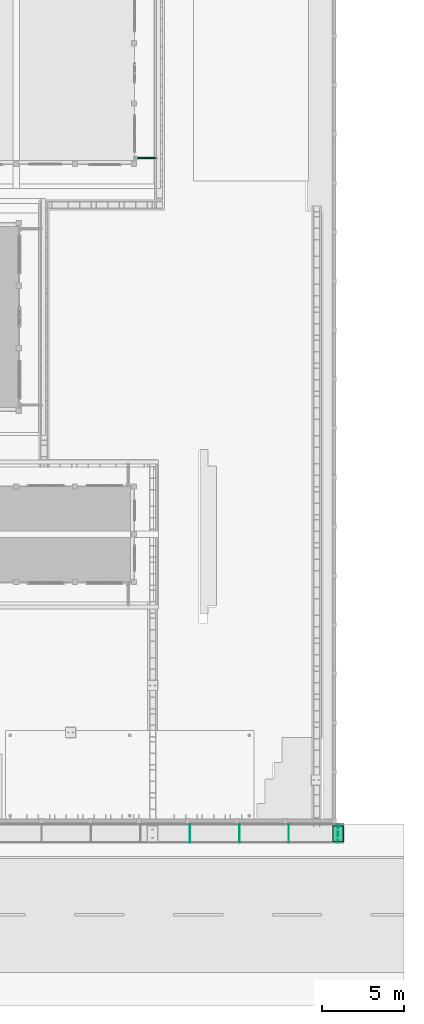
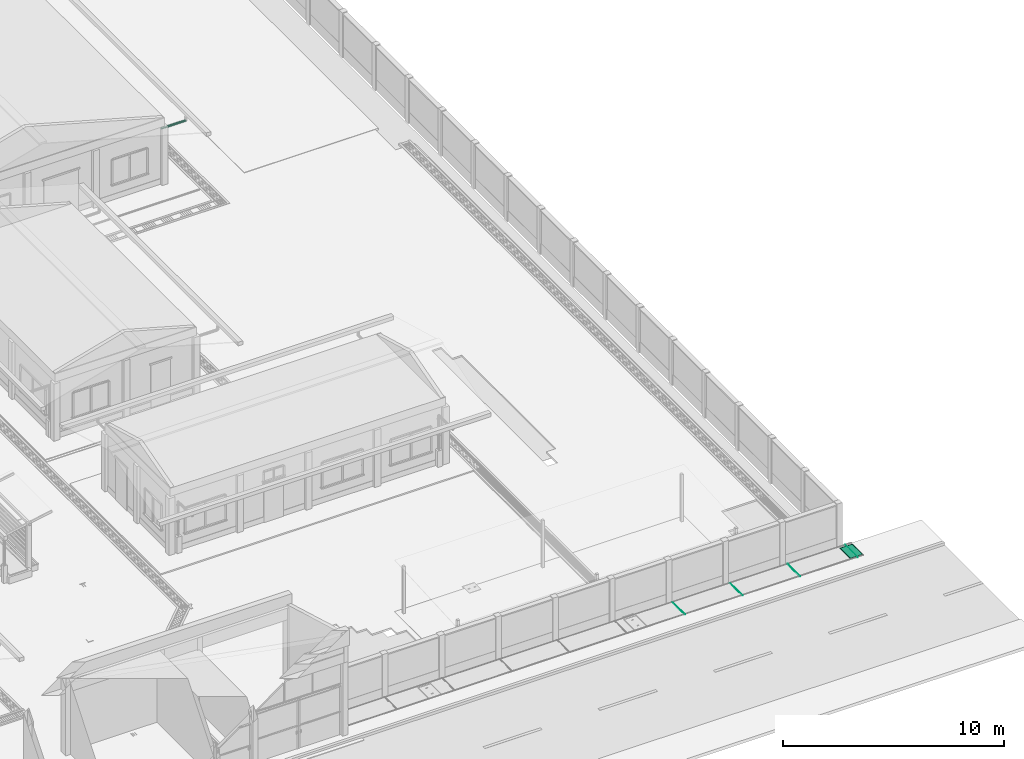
# One storey, part 96 of 151: 5 flow segments, 2 distribution chamber elements.
"""IFC2X3 building model written with IfcOpenShell, lengths in metres."""

import ifcopenshell
import ifcopenshell.guid

model = None  # the IFC model being written
_history = None  # IfcOwnerHistory: only IFC2X3 demands one
_inside = {}  # id of a spatial element -> (the spatial element, [elements in it])
_under = {}  # id of a project, library or spatial element -> (it, [spatial elements below it])
_declared = {}  # id of a project -> (the project, [libraries it declares])
_typed = {}  # id of a type object -> (the type object, [elements of that type])
_made_of = {}  # id of a material, layer set ... -> (it, [elements and type objects made of it])


def new_model(schema):
    """Start an empty IFC model of exactly this schema.

    Asked for "IFC4X3", IfcOpenShell would pick the latest addendum, in which some entities
    have other attributes; the version numbers below select the first issue.
    IFC2X3 requires an IfcOwnerHistory on every rooted entity: one is made here for all.
    """
    global model, _history
    if schema == "IFC4X3":
        model = ifcopenshell.file(schema_version=(4, 3, 0, 0))
    else:
        model = ifcopenshell.file(schema=schema)
    _inside.clear()
    _under.clear()
    _declared.clear()
    _typed.clear()
    _made_of.clear()
    _history = None
    if model.schema == "IFC2X3":
        org = make("IfcOrganization", Name="unknown")
        user = make(
            "IfcPersonAndOrganization",
            ThePerson=make("IfcPerson", FamilyName="unknown"),
            TheOrganization=org,
        )
        app = make(
            "IfcApplication",
            ApplicationDeveloper=org,
            Version="unknown",
            ApplicationFullName="unknown",
            ApplicationIdentifier="unknown",
        )
        _history = make(
            "IfcOwnerHistory",
            OwningUser=user,
            OwningApplication=app,
            ChangeAction="ADDED",
            CreationDate=0,
        )
    return model


def make(cls, **values):
    """One entity of the class cls with the attributes given. An attribute that is None is left unset."""
    return model.create_entity(
        cls, **{name: value for name, value in values.items() if value is not None}
    )


def rooted(cls, **values):
    """An entity with a GlobalId (a new one), such as an element, a storey or a relation."""
    return make(cls, GlobalId=ifcopenshell.guid.new(), OwnerHistory=_history, **values)


def si_unit(unit_type, name, prefix=None):
    """IfcSIUnit, for example si_unit("LENGTHUNIT", "METRE", prefix="MILLI")."""
    return make("IfcSIUnit", UnitType=unit_type, Prefix=prefix, Name=name)


def assignment(units):
    """IfcUnitAssignment: the units of a project."""
    return None if units is None else make("IfcUnitAssignment", Units=units)


def point(xyz):
    """IfcCartesianPoint."""
    return None if xyz is None else make("IfcCartesianPoint", Coordinates=xyz)


def direction(xyz):
    """IfcDirection."""
    return None if xyz is None else make("IfcDirection", DirectionRatios=xyz)


def frame(location, z_axis=None, x_axis=None):
    """IfcAxis2Placement3D, a coordinate frame: its origin and axes. An axis left out is left unset."""
    return make(
        "IfcAxis2Placement3D",
        Location=point(location),
        Axis=direction(z_axis),
        RefDirection=direction(x_axis),
    )


def origin():
    """The frame at (0, 0, 0) with its axes left unset."""
    return frame((0.0, 0.0, 0.0))


def origin_with_axes():
    """The frame at (0, 0, 0) with the z axis (0, 0, 1) and the x axis (1, 0, 0) written out."""
    return frame((0.0, 0.0, 0.0), z_axis=(0.0, 0.0, 1.0), x_axis=(1.0, 0.0, 0.0))


def place(relative_to, where):
    """IfcLocalPlacement: puts the frame where relative to a parent placement (None: the world)."""
    return make(
        "IfcLocalPlacement", PlacementRelTo=relative_to, RelativePlacement=where
    )


def context(
    kind, dimensions, precision=None, world=None, true_north=None, identifier=None
):
    """IfcGeometricRepresentationContext, for example the 3D "Model" context."""
    return make(
        "IfcGeometricRepresentationContext",
        ContextIdentifier=identifier,
        ContextType=kind,
        CoordinateSpaceDimension=dimensions,
        Precision=precision,
        WorldCoordinateSystem=world,
        TrueNorth=true_north,
    )


def subcontext(parent, identifier, kind, view, scale=None):
    """IfcGeometricRepresentationSubContext, for example "Body" below "Model"."""
    return make(
        "IfcGeometricRepresentationSubContext",
        ContextIdentifier=identifier,
        ContextType=kind,
        ParentContext=parent,
        TargetScale=scale,
        TargetView=view,
    )


def project(units=None, contexts=None):
    """IfcProject with its units and contexts."""
    return rooted(
        "IfcProject",
        Name="project",
        RepresentationContexts=contexts,
        UnitsInContext=assignment(units),
    )


def spatial(cls, under=None, at=None, **own):
    """A site, building, storey or space (cls), placed at a placement, below another one or the project."""
    s = rooted(cls, ObjectPlacement=at, **own)
    if under is not None:
        _under.setdefault(under.id(), (under, []))[1].append(s)
    return s


def faces_of(points, faces, orient=None, outer=None):
    """IfcFace entities. A face is a list of loops; a loop is a list of indices into points, from 0.

    orient and outer hold one flag for each loop. By default every Orientation is true, the
    first loop of a face is its IfcFaceOuterBound and the others are IfcFaceBound.
    """
    made = []
    for i, loops in enumerate(faces):
        bounds = []
        for j, loop in enumerate(loops):
            is_outer = j == 0 if outer is None else outer[i][j]
            bounds.append(
                make(
                    "IfcFaceOuterBound" if is_outer else "IfcFaceBound",
                    Bound=make("IfcPolyLoop", Polygon=[points[k] for k in loop]),
                    Orientation=True if orient is None else orient[i][j],
                )
            )
        made.append(make("IfcFace", Bounds=bounds))
    return made


def faceted_brep(points, faces, orient=None, outer=None, voids=None):
    """IfcFacetedBrep: a solid bounded by flat faces; with voids (closed shells), ...WithVoids."""
    shared = [point(p) for p in points]
    hull = make("IfcClosedShell", CfsFaces=faces_of(shared, faces, orient, outer))
    if voids is None:
        return make("IfcFacetedBrep", Outer=hull)
    return make(
        "IfcFacetedBrepWithVoids",
        Outer=hull,
        Voids=[
            make(cls, CfsFaces=faces_of(shared, fs, o, b)) for cls, fs, o, b in voids
        ],
    )


def shape(context_of_items, identifier, shape_type, items):
    """IfcShapeRepresentation: the items that make up one representation, for example the "Body"."""
    return make(
        "IfcShapeRepresentation",
        ContextOfItems=context_of_items,
        RepresentationIdentifier=identifier,
        RepresentationType=shape_type,
        Items=items,
    )


def made_of(thing, what):
    """Note that an element or type object is made of a material, layer set ...; save() writes the relation."""
    if what is not None:
        _made_of.setdefault(what.id(), (what, []))[1].append(thing)
    return thing


def element(
    cls,
    number,
    at=None,
    inside=None,
    cuts=None,
    type_object=None,
    material=None,
    context=None,
    identifier="Body",
    shape_type=None,
    held_by="IfcProductDefinitionShape",
    body=None,
    shapes=None,
    **own,
):
    """One element of the class cls, such as IfcWall. Its Tag is "e" and its number.

    at: its placement. inside: the storey or other place that contains it. cuts: it is an
    opening in that element (IfcRelVoidsElement). A single representation is given by context,
    identifier, shape_type and body (its items); several are given by shapes. held_by: the class
    of the entity that holds the representations. save() writes the other relations.
    """
    e = rooted(cls, Tag="e%d" % number, ObjectPlacement=at, **own)
    if body is not None:
        shapes = [shape(context, identifier, shape_type, body)]
    if shapes is not None:
        e.Representation = make(held_by, Representations=shapes)
    if inside is not None:
        _inside.setdefault(inside.id(), (inside, []))[1].append(e)
    if cuts is not None:
        rooted(
            "IfcRelVoidsElement", RelatingBuildingElement=cuts, RelatedOpeningElement=e
        )
    if type_object is not None:
        _typed.setdefault(type_object.id(), (type_object, []))[1].append(e)
    return made_of(e, material)


def aggregate(whole, parts):
    """IfcRelAggregates: a whole, such as a stair, and the parts it consists of."""
    return rooted("IfcRelAggregates", RelatingObject=whole, RelatedObjects=parts)


def save(model, path):
    """Write the relations noted so far, then the file.

    IfcRelAggregates (storeys below a building ...), IfcRelContainedInSpatialStructure (elements
    in a storey), IfcRelDefinesByType, IfcRelAssociatesMaterial and IfcRelDeclares: one each for
    every whole, place, type object, material and project.
    """
    for whole, parts in _under.values():
        aggregate(whole, parts)
    for where, things in _inside.values():
        rooted(
            "IfcRelContainedInSpatialStructure",
            RelatedElements=things,
            RelatingStructure=where,
        )
    for kind, things in _typed.values():
        rooted("IfcRelDefinesByType", RelatedObjects=things, RelatingType=kind)
    for what, things in _made_of.values():
        rooted("IfcRelAssociatesMaterial", RelatedObjects=things, RelatingMaterial=what)
    for by, libraries in _declared.values():
        rooted("IfcRelDeclares", RelatingContext=by, RelatedDefinitions=libraries)
    model.write(path)


model = new_model("IFC2X3")

# Units and contexts
model_context = context("Model", 3, precision=1e-05, world=origin_with_axes())
body_context = subcontext(model_context, "Body", "Model", "MODEL_VIEW")
ifc_project = project(units=[si_unit("LENGTHUNIT", "METRE"), si_unit("AREAUNIT", "SQUARE_METRE"), si_unit("VOLUMEUNIT", "CUBIC_METRE"), si_unit("PLANEANGLEUNIT", "RADIAN")], contexts=[model_context])

# Site, building, storey
site_placement = place(None, origin_with_axes())
site = spatial("IfcSite", under=ifc_project, at=site_placement, Name="Predio Los Mangos - Morales, San Martín", CompositionType="ELEMENT")
building_placement = place(site_placement, origin())
building = spatial("IfcBuilding", under=site, at=building_placement, Name="Hogar de Refugio Temporal", CompositionType="ELEMENT")
storey_placement = place(building_placement, origin())
storey = spatial("IfcBuildingStorey", under=building, at=storey_placement, Name="NIVEL 1 (NPT +0.00)", CompositionType="ELEMENT", Elevation=0.0)

# Flow segments
flow_segment_1_placement = place(storey_placement, origin())
element("IfcFlowSegment", 1, at=flow_segment_1_placement, inside=storey, Name="montante_desvio", ObjectType="Montante PVC 4\"", context=body_context, shape_type="Brep", body=[
    faceted_brep([(60.98, 58.25, 2.965), (59.69, 58.25, 2.965), (59.69, 58.2225, 2.9576), (60.98, 58.2225, 2.9576), (59.69, 58.2024, 2.9375), (60.98, 58.2024, 2.9375), (59.69, 58.195, 2.91), (60.98, 58.195, 2.91), (59.69, 58.2024, 2.8825), (60.98, 58.2024, 2.8825), (59.69, 58.2225, 2.8624), (60.98, 58.2225, 2.8624), (59.69, 58.25, 2.855), (60.98, 58.25, 2.855), (59.69, 58.2775, 2.8624), (60.98, 58.2775, 2.8624), (59.69, 58.2976, 2.8825), (60.98, 58.2976, 2.8825), (59.69, 58.305, 2.91), (60.98, 58.305, 2.91), (59.69, 58.2976, 2.9375), (60.98, 58.2976, 2.9375), (59.69, 58.2775, 2.9576), (60.98, 58.2775, 2.9576)], [[[0, 1, 2, 3]], [[3, 2, 4, 5]], [[5, 4, 6, 7]], [[7, 6, 8, 9]], [[9, 8, 10, 11]], [[11, 10, 12, 13]], [[13, 12, 14, 15]], [[15, 14, 16, 17]], [[17, 16, 18, 19]], [[19, 18, 20, 21]], [[2, 1, 22, 20, 18, 16, 14, 12, 10, 8, 6, 4]], [[21, 20, 22, 23]], [[23, 22, 1, 0]], [[0, 3, 5, 7, 9, 11, 13, 15, 17, 19, 21, 23]]]),
])
flow_segment_2_placement = place(storey_placement, origin())
element("IfcFlowSegment", 2, at=flow_segment_2_placement, inside=storey, Name="junta_losa", ObjectType="Colector frontal b=0.80 (losa-vereda)", context=body_context, shape_type="Brep", body=[
    faceted_brep([(71.9873, 16.665, 0.15), (71.9873, 17.79, 0.15), (72.0127, 17.79, 0.15), (72.0127, 16.665, 0.15), (71.9873, 16.665, 0.1635), (72.0127, 16.665, 0.1635), (72.0127, 17.79, 0.1635), (71.9873, 17.79, 0.1635)], [[[0, 1, 2, 3]], [[4, 5, 6, 7]], [[0, 3, 5, 4]], [[3, 2, 6, 5]], [[2, 1, 7, 6]], [[1, 0, 4, 7]]]),
])
flow_segment_3_placement = place(storey_placement, origin())
element("IfcFlowSegment", 3, at=flow_segment_3_placement, inside=storey, Name="junta_losa", ObjectType="Colector frontal b=0.80 (losa-vereda)", context=body_context, shape_type="Brep", body=[
    faceted_brep([(68.9873, 16.665, 0.15), (68.9873, 17.79, 0.15), (69.0127, 17.79, 0.15), (69.0127, 16.665, 0.15), (68.9873, 16.665, 0.1635), (69.0127, 16.665, 0.1635), (69.0127, 17.79, 0.1635), (68.9873, 17.79, 0.1635)], [[[0, 1, 2, 3]], [[4, 5, 6, 7]], [[0, 3, 5, 4]], [[3, 2, 6, 5]], [[2, 1, 7, 6]], [[1, 0, 4, 7]]]),
])
flow_segment_4_placement = place(storey_placement, origin())
element("IfcFlowSegment", 4, at=flow_segment_4_placement, inside=storey, Name="junta_losa", ObjectType="Colector frontal b=0.80 (losa-vereda)", context=body_context, shape_type="Brep", body=[
    faceted_brep([(65.9873, 16.665, 0.15), (65.9873, 17.79, 0.15), (66.0127, 17.79, 0.15), (66.0127, 16.665, 0.15), (65.9873, 16.665, 0.1635), (66.0127, 16.665, 0.1635), (66.0127, 17.79, 0.1635), (65.9873, 17.79, 0.1635)], [[[0, 1, 2, 3]], [[4, 5, 6, 7]], [[0, 3, 5, 4]], [[3, 2, 6, 5]], [[2, 1, 7, 6]], [[1, 0, 4, 7]]]),
])
flow_segment_5_placement = place(storey_placement, origin())
element("IfcFlowSegment", 5, at=flow_segment_5_placement, inside=storey, Name="junta_losa", ObjectType="Colector frontal b=0.80 (losa-vereda)", context=body_context, shape_type="Brep", body=[
    faceted_brep([(62.9873, 16.665, 0.15), (62.9873, 17.79, 0.15), (63.0127, 17.79, 0.15), (63.0127, 16.665, 0.15), (62.9873, 16.665, 0.1635), (63.0127, 16.665, 0.1635), (63.0127, 17.79, 0.1635), (62.9873, 17.79, 0.1635)], [[[0, 1, 2, 3]], [[4, 5, 6, 7]], [[0, 3, 5, 4]], [[3, 2, 6, 5]], [[2, 1, 7, 6]], [[1, 0, 4, 7]]]),
])

# Distribution chamber elements
distribution_chamber_element_1_placement = place(storey_placement, origin())
element("IfcDistributionChamberElement", 6, at=distribution_chamber_element_1_placement, inside=storey, Name="tapa_junta", ObjectType="Tapa ciega de registro del colector", context=body_context, shape_type="Brep", body=[
    faceted_brep([(71.655, 16.72, 0.161), (71.655, 17.71, 0.161), (72.345, 17.71, 0.161), (72.345, 16.72, 0.161), (71.655, 16.72, 0.164), (72.345, 16.72, 0.164), (72.345, 17.71, 0.164), (71.655, 17.71, 0.164)], [[[0, 1, 2, 3]], [[4, 5, 6, 7]], [[0, 3, 5, 4]], [[3, 2, 6, 5]], [[2, 1, 7, 6]], [[1, 0, 4, 7]]]),
])
distribution_chamber_element_2_placement = place(storey_placement, origin())
element("IfcDistributionChamberElement", 7, at=distribution_chamber_element_2_placement, inside=storey, Name="tapa_ciega", ObjectType="Tapa ciega de registro del colector", context=body_context, shape_type="Brep", body=[
    faceted_brep([(71.69, 16.755, 0.161), (71.69, 17.675, 0.161), (72.31, 17.675, 0.161), (72.31, 16.755, 0.161), (71.69, 16.755, 0.17), (72.31, 16.755, 0.17), (72.31, 17.675, 0.17), (71.69, 17.675, 0.17)], [[[0, 1, 2, 3]], [[4, 5, 6, 7]], [[0, 3, 5, 4]], [[3, 2, 6, 5]], [[2, 1, 7, 6]], [[1, 0, 4, 7]]]),
])

save(model, "model.ifc")
